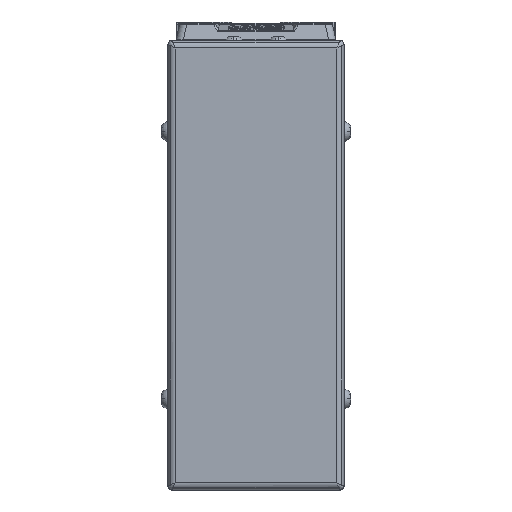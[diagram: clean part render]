
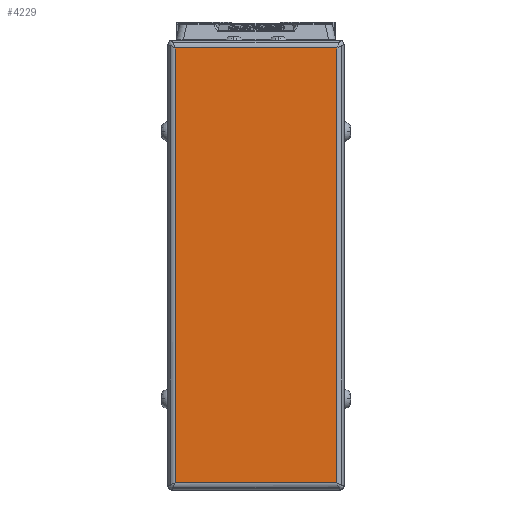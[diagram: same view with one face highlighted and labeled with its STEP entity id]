
A CAD part, left-side view. The second image highlights one B-rep face of the part: STEP entity #4229.
In plain terms, the highlighted planar face has unit normal (-1, 0, 0).
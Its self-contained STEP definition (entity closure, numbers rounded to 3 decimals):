
#4229=ADVANCED_FACE('',(#9019),#9020,.T.);
#9019=FACE_OUTER_BOUND('',#16641,.T.);
#9020=PLANE('',#16642);
#16641=EDGE_LOOP('',(#29720,#29721,#29722,#29723));
#16642=AXIS2_PLACEMENT_3D('',#29724,#29725,#29726);
#29720=ORIENTED_EDGE('',*,*,#38311,.F.);
#29721=ORIENTED_EDGE('',*,*,#35926,.F.);
#29722=ORIENTED_EDGE('',*,*,#34957,.F.);
#29723=ORIENTED_EDGE('',*,*,#39089,.F.);
#29724=CARTESIAN_POINT('',(-48.,0.,-42.5));
#29725=DIRECTION('',(-1.0,0.,0.));
#29726=DIRECTION('',(0.,0.,1.0));
#34957=EDGE_CURVE('',#41449,#41380,#41451,.T.);
#35926=EDGE_CURVE('',#41380,#43098,#43099,.T.);
#38311=EDGE_CURVE('',#43098,#44901,#46788,.T.);
#39089=EDGE_CURVE('',#44901,#41449,#47787,.T.);
#41380=VERTEX_POINT('',#50563);
#41449=VERTEX_POINT('',#50653);
#41451=LINE('',#50655,#50656);
#43098=VERTEX_POINT('',#53280);
#43099=LINE('',#53281,#53282);
#44901=VERTEX_POINT('',#55806);
#46788=LINE('',#58600,#58601);
#47787=LINE('',#60086,#60087);
#50563=CARTESIAN_POINT('',(-48.,21.7,-101.0));
#50653=CARTESIAN_POINT('',(-48.,-21.7,-101.0));
#50655=CARTESIAN_POINT('',(-48.,0.,-101.0));
#50656=VECTOR('',#63021,10.0);
#53280=CARTESIAN_POINT('',(-48.,21.7,16.));
#53281=CARTESIAN_POINT('',(-48.,21.7,-42.5));
#53282=VECTOR('',#64287,10.0);
#55806=CARTESIAN_POINT('',(-48.,-21.7,16.));
#58600=CARTESIAN_POINT('',(-48.,0.,16.));
#58601=VECTOR('',#67500,10.0);
#60086=CARTESIAN_POINT('',(-48.,-21.7,-42.5));
#60087=VECTOR('',#68372,10.0);
#63021=DIRECTION('',(0.,1.0,0.));
#64287=DIRECTION('',(0.,0.,1.0));
#67500=DIRECTION('',(0.,-1.0,0.));
#68372=DIRECTION('',(0.,0.,-1.0));
